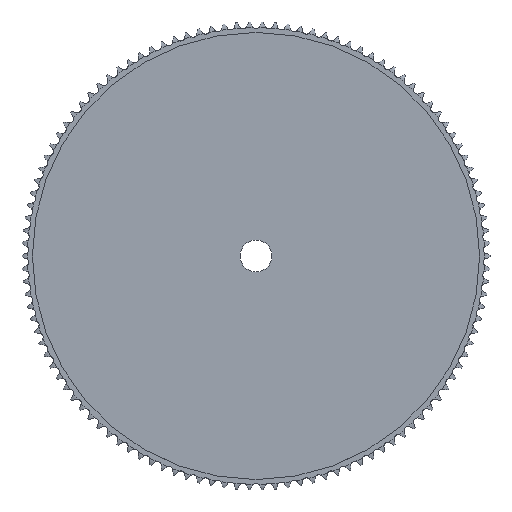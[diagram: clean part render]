
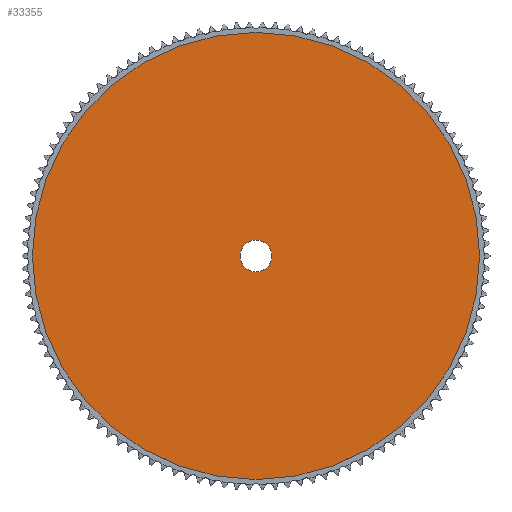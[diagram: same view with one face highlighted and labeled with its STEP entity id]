
A CAD part, top view. The second image highlights one B-rep face of the part: STEP entity #33355.
In plain terms, the highlighted planar face has unit normal (0, 0, 1).
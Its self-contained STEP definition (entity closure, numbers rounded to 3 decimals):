
#19209=CARTESIAN_POINT('',(0.,0.,2.));
#19210=DIRECTION('',(0.,0.,-1.));
#19211=DIRECTION('',(-1.,0.,0.));
#19212=AXIS2_PLACEMENT_3D('',#19209,#19210,#19211);
#19217=CARTESIAN_POINT('',(0.,0.,2.));
#19218=DIRECTION('',(0.,0.,-1.));
#19219=DIRECTION('',(1.,0.,0.));
#19220=AXIS2_PLACEMENT_3D('',#19217,#19218,#19219);
#19225=CARTESIAN_POINT('',(0.,0.,2.));
#19226=DIRECTION('',(0.,0.,1.));
#19227=DIRECTION('',(1.,0.,0.));
#19228=AXIS2_PLACEMENT_3D('',#19225,#19226,#19227);
#19233=CARTESIAN_POINT('',(0.,0.,2.));
#19234=DIRECTION('',(0.,0.,1.));
#19235=DIRECTION('',(-1.,0.,0.));
#19236=AXIS2_PLACEMENT_3D('',#19233,#19234,#19235);
#20942=CARTESIAN_POINT('',(-140.168,0.,2.));
#20943=CARTESIAN_POINT('',(140.168,0.,2.));
#20944=VERTEX_POINT('',#20942);
#20945=VERTEX_POINT('',#20943);
#20962=CARTESIAN_POINT('',(10.,0.,2.));
#20963=VERTEX_POINT('',#20962);
#20964=CARTESIAN_POINT('',(-10.,0.,2.));
#20965=VERTEX_POINT('',#20964);
#33340=CARTESIAN_POINT('',(0.,0.,2.));
#33341=DIRECTION('',(0.,0.,1.));
#33342=DIRECTION('',(1.,0.,0.));
#33343=AXIS2_PLACEMENT_3D('',#33340,#33341,#33342);
#33344=PLANE('',#33343);
#33345=ORIENTED_EDGE('',*,*,#33292,.T.);
#33346=ORIENTED_EDGE('',*,*,#33321,.T.);
#33347=EDGE_LOOP('',(#33345,#33346));
#33348=FACE_OUTER_BOUND('',#33347,.F.);
#33350=ORIENTED_EDGE('',*,*,#33349,.T.);
#33352=ORIENTED_EDGE('',*,*,#33351,.T.);
#33353=EDGE_LOOP('',(#33350,#33352));
#33354=FACE_BOUND('',#33353,.F.);
#33355=ADVANCED_FACE('',(#33348,#33354),#33344,.T.);
#19213=CIRCLE('',#19212,140.168);
#19221=CIRCLE('',#19220,140.168);
#19229=CIRCLE('',#19228,10.);
#19237=CIRCLE('',#19236,10.);
#33292=EDGE_CURVE('',#20944,#20945,#19213,.T.);
#33321=EDGE_CURVE('',#20945,#20944,#19221,.T.);
#33349=EDGE_CURVE('',#20963,#20965,#19229,.T.);
#33351=EDGE_CURVE('',#20965,#20963,#19237,.T.);
